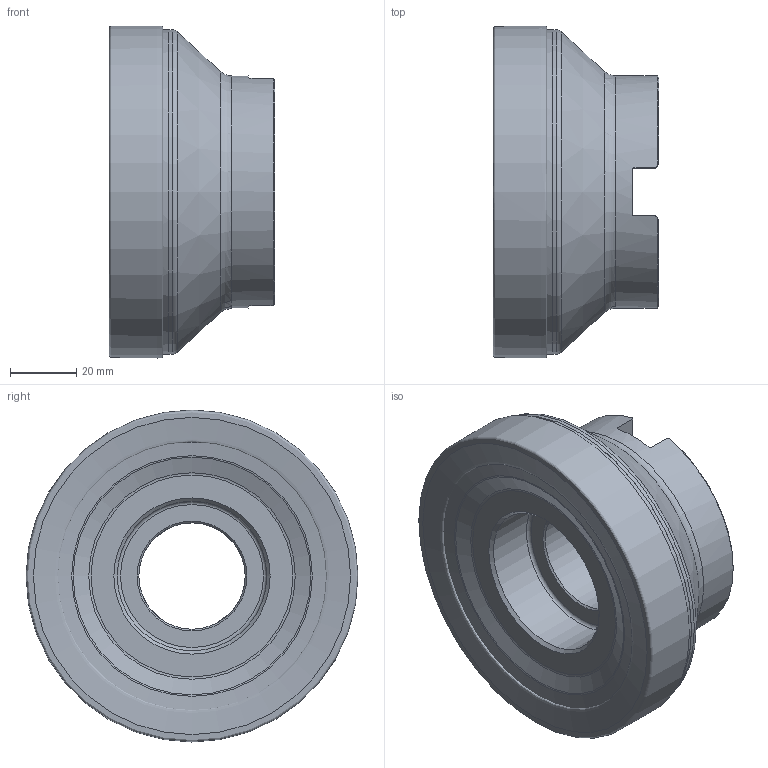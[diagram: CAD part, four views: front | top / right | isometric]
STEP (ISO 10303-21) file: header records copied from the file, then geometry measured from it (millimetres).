
FILE_DESCRIPTION(/* description */ (''),/* implementation_level */ '2;1');
FILE_NAME(/* name */ 'Stp.stp',/* time_stamp */ '2021-03-23T20:10:43+08:00',/* author */ (''),/* organization */ (''),/* preprocessor_version */ 'ST-DEVELOPER v16.7',/* originating_system */ 'SIEMENS PLM Software NX 12.0',/* authorisation */ '');
FILE_SCHEMA (('AUTOMOTIVE_DESIGN { 1 0 10303 214 3 1 1 1 }'));
Length unit declared in the file: millimetre
Products named in the file (2): APKT160408-ALH; EMP02-100-B32-AP16-08_S
Assembly tree (8 placements, depth 2):
  EMP02-100-B32-AP16-08_S
    APKT160408-ALH  x8
Bounding box: 49.88 x 99.89 x 99.9 mm (x, y, z)
Volume: 260013.6 mm3; surface area: 43480 mm2
Topology: 2 solids, 2 shells, 49 faces, 123 edges, 77 vertices
Faces by surface type: plane 17, cone 12, torus 10, cylinder 8, revolution 2
Full cylindrical faces by diameter (mm): 32 x1, 45 x1, 70 x1, 97.558 x1
Entity records: 1598 total; most frequent: CARTESIAN_POINT 485, DIRECTION 222, ORIENTED_EDGE 182, AXIS2_PLACEMENT_3D 98, EDGE_CURVE 91, EDGE_LOOP 72, VERTEX_POINT 67, ADVANCED_FACE 48
